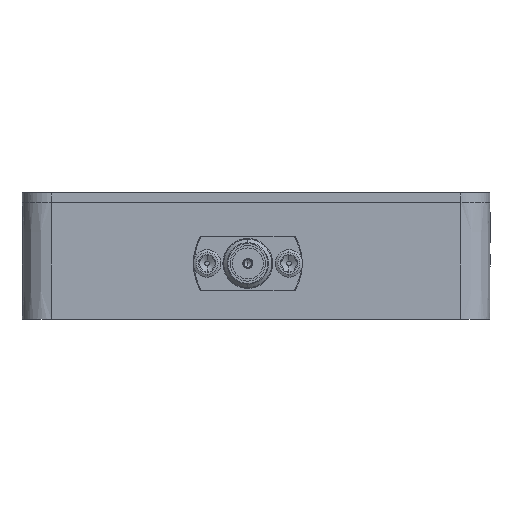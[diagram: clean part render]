
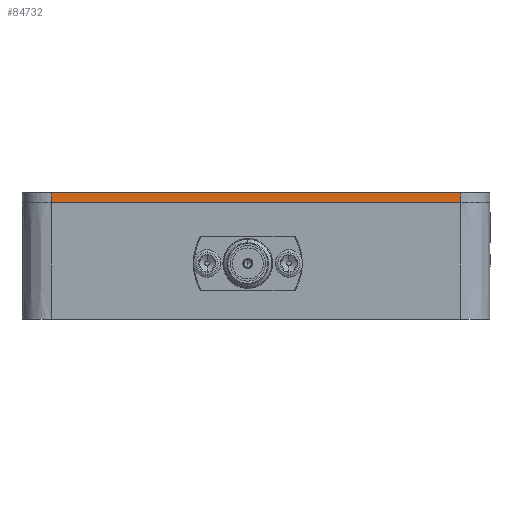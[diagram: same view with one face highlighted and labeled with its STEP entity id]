
A CAD part, left-side view. The second image highlights one B-rep face of the part: STEP entity #84732.
In plain terms, the highlighted face is a extrusion surface.
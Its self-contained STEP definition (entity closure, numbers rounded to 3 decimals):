
#82274 = PLANE('',#82275);
#82275 = AXIS2_PLACEMENT_3D('',#82276,#82277,#82278);
#82276 = CARTESIAN_POINT('',(22.225,26.035,15.24));
#82277 = DIRECTION('',(-0.,-0.,-1.));
#82278 = DIRECTION('',(-1.,0.,0.));
#83901 = VERTEX_POINT('',#83902);
#83902 = CARTESIAN_POINT('',(-4.445,-0.635,15.24));
#83916 = SURFACE_OF_LINEAR_EXTRUSION('',#83917,#83921);
#83917 = ( BOUNDED_CURVE() B_SPLINE_CURVE(2,(#83918,#83919,#83920),
.UNSPECIFIED.,.F.,.F.) B_SPLINE_CURVE_WITH_KNOTS((3,3),(0.,1.),
.PIECEWISE_BEZIER_KNOTS.) CURVE() GEOMETRIC_REPRESENTATION_ITEM() 
RATIONAL_B_SPLINE_CURVE((1.,0.707,1.)) REPRESENTATION_ITEM('') 
  );
#83918 = CARTESIAN_POINT('',(-0.635,-4.445,15.24));
#83919 = CARTESIAN_POINT('',(-4.445,-4.445,15.24));
#83920 = CARTESIAN_POINT('',(-4.445,-0.635,15.24));
#83921 = VECTOR('',#83922,1.);
#83922 = DIRECTION('',(-0.,-0.,-1.));
#83930 = EDGE_CURVE('',#83901,#83931,#83933,.T.);
#83931 = VERTEX_POINT('',#83932);
#83932 = CARTESIAN_POINT('',(-4.445,52.705,15.24));
#83933 = SURFACE_CURVE('',#83934,(#83937,#83943),.PCURVE_S1.);
#83934 = B_SPLINE_CURVE_WITH_KNOTS('',1,(#83935,#83936),.UNSPECIFIED.,
  .F.,.F.,(2,2),(0.,1.),.PIECEWISE_BEZIER_KNOTS.);
#83935 = CARTESIAN_POINT('',(-4.445,-0.635,15.24));
#83936 = CARTESIAN_POINT('',(-4.445,52.705,15.24));
#83937 = PCURVE('',#82274,#83938);
#83938 = DEFINITIONAL_REPRESENTATION('',(#83939),#83942);
#83939 = B_SPLINE_CURVE_WITH_KNOTS('',1,(#83940,#83941),.UNSPECIFIED.,
  .F.,.F.,(2,2),(0.,1.),.PIECEWISE_BEZIER_KNOTS.);
#83940 = CARTESIAN_POINT('',(26.67,-26.67));
#83941 = CARTESIAN_POINT('',(26.67,26.67));
#83942 = ( GEOMETRIC_REPRESENTATION_CONTEXT(2) 
PARAMETRIC_REPRESENTATION_CONTEXT() REPRESENTATION_CONTEXT('2D SPACE',''
  ) );
#83943 = PCURVE('',#83944,#83950);
#83944 = SURFACE_OF_LINEAR_EXTRUSION('',#83945,#83948);
#83945 = B_SPLINE_CURVE_WITH_KNOTS('',1,(#83946,#83947),.UNSPECIFIED.,
  .F.,.F.,(2,2),(0.,1.),.PIECEWISE_BEZIER_KNOTS.);
#83946 = CARTESIAN_POINT('',(-4.445,-0.635,15.24));
#83947 = CARTESIAN_POINT('',(-4.445,52.705,15.24));
#83948 = VECTOR('',#83949,1.);
#83949 = DIRECTION('',(-0.,-0.,-1.));
#83950 = DEFINITIONAL_REPRESENTATION('',(#83951),#83955);
#83951 = LINE('',#83952,#83953);
#83952 = CARTESIAN_POINT('',(0.,0.));
#83953 = VECTOR('',#83954,1.);
#83954 = DIRECTION('',(1.,0.));
#83955 = ( GEOMETRIC_REPRESENTATION_CONTEXT(2) 
PARAMETRIC_REPRESENTATION_CONTEXT() REPRESENTATION_CONTEXT('2D SPACE',''
  ) );
#83973 = SURFACE_OF_LINEAR_EXTRUSION('',#83974,#83978);
#83974 = ( BOUNDED_CURVE() B_SPLINE_CURVE(2,(#83975,#83976,#83977),
.UNSPECIFIED.,.F.,.F.) B_SPLINE_CURVE_WITH_KNOTS((3,3),(0.,1.),
.PIECEWISE_BEZIER_KNOTS.) CURVE() GEOMETRIC_REPRESENTATION_ITEM() 
RATIONAL_B_SPLINE_CURVE((1.,0.707,1.)) REPRESENTATION_ITEM('') 
  );
#83975 = CARTESIAN_POINT('',(-4.445,52.705,15.24));
#83976 = CARTESIAN_POINT('',(-4.445,56.515,15.24));
#83977 = CARTESIAN_POINT('',(-0.635,56.515,15.24));
#83978 = VECTOR('',#83979,1.);
#83979 = DIRECTION('',(-0.,-0.,-1.));
#84637 = VERTEX_POINT('',#84638);
#84638 = CARTESIAN_POINT('',(-4.445,-0.635,16.51));
#84652 = PLANE('',#84653);
#84653 = AXIS2_PLACEMENT_3D('',#84654,#84655,#84656);
#84654 = CARTESIAN_POINT('',(22.225,26.035,16.51));
#84655 = DIRECTION('',(-0.,-0.,-1.));
#84656 = DIRECTION('',(-1.,0.,0.));
#84664 = EDGE_CURVE('',#83901,#84637,#84665,.T.);
#84665 = SURFACE_CURVE('',#84666,(#84670,#84677),.PCURVE_S1.);
#84666 = LINE('',#84667,#84668);
#84667 = CARTESIAN_POINT('',(-4.445,-0.635,15.24));
#84668 = VECTOR('',#84669,1.);
#84669 = DIRECTION('',(0.,0.,1.));
#84670 = PCURVE('',#83916,#84671);
#84671 = DEFINITIONAL_REPRESENTATION('',(#84672),#84676);
#84672 = LINE('',#84673,#84674);
#84673 = CARTESIAN_POINT('',(1.,0.));
#84674 = VECTOR('',#84675,1.);
#84675 = DIRECTION('',(0.,-1.));
#84676 = ( GEOMETRIC_REPRESENTATION_CONTEXT(2) 
PARAMETRIC_REPRESENTATION_CONTEXT() REPRESENTATION_CONTEXT('2D SPACE',''
  ) );
#84677 = PCURVE('',#83944,#84678);
#84678 = DEFINITIONAL_REPRESENTATION('',(#84679),#84683);
#84679 = LINE('',#84680,#84681);
#84680 = CARTESIAN_POINT('',(0.,0.));
#84681 = VECTOR('',#84682,1.);
#84682 = DIRECTION('',(0.,-1.));
#84683 = ( GEOMETRIC_REPRESENTATION_CONTEXT(2) 
PARAMETRIC_REPRESENTATION_CONTEXT() REPRESENTATION_CONTEXT('2D SPACE',''
  ) );
#84732 = ADVANCED_FACE('',(#84733),#83944,.T.);
#84733 = FACE_BOUND('',#84734,.T.);
#84734 = EDGE_LOOP('',(#84735,#84736,#84757,#84778));
#84735 = ORIENTED_EDGE('',*,*,#84664,.T.);
#84736 = ORIENTED_EDGE('',*,*,#84737,.T.);
#84737 = EDGE_CURVE('',#84637,#84738,#84740,.T.);
#84738 = VERTEX_POINT('',#84739);
#84739 = CARTESIAN_POINT('',(-4.445,52.705,16.51));
#84740 = SURFACE_CURVE('',#84741,(#84744,#84751),.PCURVE_S1.);
#84741 = B_SPLINE_CURVE_WITH_KNOTS('',1,(#84742,#84743),.UNSPECIFIED.,
  .F.,.F.,(2,2),(0.,1.),.PIECEWISE_BEZIER_KNOTS.);
#84742 = CARTESIAN_POINT('',(-4.445,-0.635,16.51));
#84743 = CARTESIAN_POINT('',(-4.445,52.705,16.51));
#84744 = PCURVE('',#83944,#84745);
#84745 = DEFINITIONAL_REPRESENTATION('',(#84746),#84750);
#84746 = LINE('',#84747,#84748);
#84747 = CARTESIAN_POINT('',(0.,-1.27));
#84748 = VECTOR('',#84749,1.);
#84749 = DIRECTION('',(1.,0.));
#84750 = ( GEOMETRIC_REPRESENTATION_CONTEXT(2) 
PARAMETRIC_REPRESENTATION_CONTEXT() REPRESENTATION_CONTEXT('2D SPACE',''
  ) );
#84751 = PCURVE('',#84652,#84752);
#84752 = DEFINITIONAL_REPRESENTATION('',(#84753),#84756);
#84753 = B_SPLINE_CURVE_WITH_KNOTS('',1,(#84754,#84755),.UNSPECIFIED.,
  .F.,.F.,(2,2),(0.,1.),.PIECEWISE_BEZIER_KNOTS.);
#84754 = CARTESIAN_POINT('',(26.67,-26.67));
#84755 = CARTESIAN_POINT('',(26.67,26.67));
#84756 = ( GEOMETRIC_REPRESENTATION_CONTEXT(2) 
PARAMETRIC_REPRESENTATION_CONTEXT() REPRESENTATION_CONTEXT('2D SPACE',''
  ) );
#84757 = ORIENTED_EDGE('',*,*,#84758,.F.);
#84758 = EDGE_CURVE('',#83931,#84738,#84759,.T.);
#84759 = SURFACE_CURVE('',#84760,(#84764,#84771),.PCURVE_S1.);
#84760 = LINE('',#84761,#84762);
#84761 = CARTESIAN_POINT('',(-4.445,52.705,15.24));
#84762 = VECTOR('',#84763,1.);
#84763 = DIRECTION('',(0.,0.,1.));
#84764 = PCURVE('',#83944,#84765);
#84765 = DEFINITIONAL_REPRESENTATION('',(#84766),#84770);
#84766 = LINE('',#84767,#84768);
#84767 = CARTESIAN_POINT('',(1.,0.));
#84768 = VECTOR('',#84769,1.);
#84769 = DIRECTION('',(0.,-1.));
#84770 = ( GEOMETRIC_REPRESENTATION_CONTEXT(2) 
PARAMETRIC_REPRESENTATION_CONTEXT() REPRESENTATION_CONTEXT('2D SPACE',''
  ) );
#84771 = PCURVE('',#83973,#84772);
#84772 = DEFINITIONAL_REPRESENTATION('',(#84773),#84777);
#84773 = LINE('',#84774,#84775);
#84774 = CARTESIAN_POINT('',(0.,0.));
#84775 = VECTOR('',#84776,1.);
#84776 = DIRECTION('',(0.,-1.));
#84777 = ( GEOMETRIC_REPRESENTATION_CONTEXT(2) 
PARAMETRIC_REPRESENTATION_CONTEXT() REPRESENTATION_CONTEXT('2D SPACE',''
  ) );
#84778 = ORIENTED_EDGE('',*,*,#83930,.F.);
